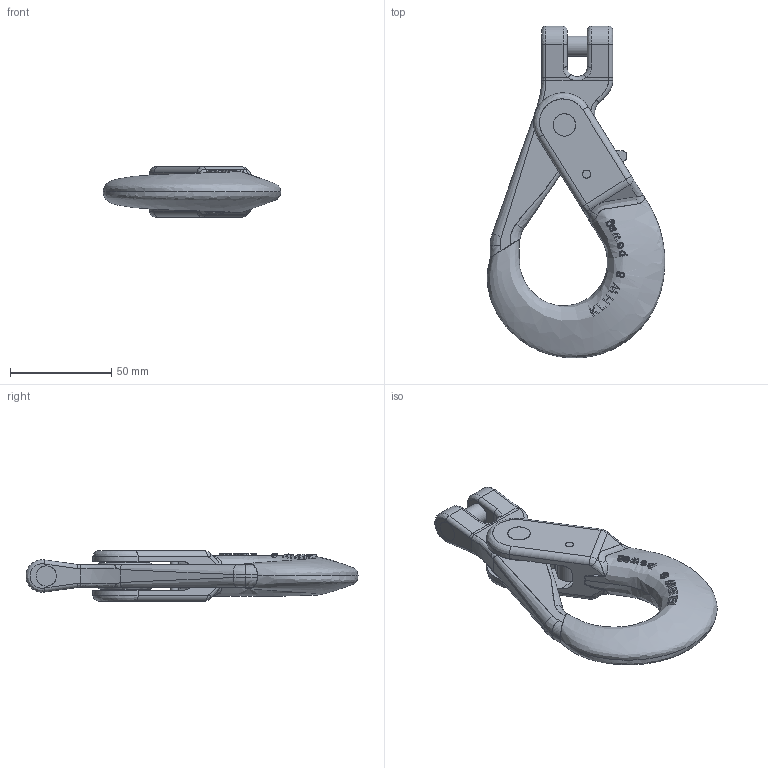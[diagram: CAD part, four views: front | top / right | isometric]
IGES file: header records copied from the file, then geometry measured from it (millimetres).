
Global section: file name: L:\users\SC\3D Kundenmodelle\UG Zg der Ableitung G100\KLHW Kundenmodell\KLHW 8 Kundenmodell\pewag_KLHW_8.igs; native system: NX V4.0; preprocessor: UGS NX IGES V4.0; date: 20100204.102228; units: millimetre
Bounding box: 87.62 x 163.73 x 25 mm (x, y, z)
Surface area: 32164.2 mm2 (no closed solid volume)
Topology: 0 solids, 0 shells, 334 faces, 2193 edges, 2187 vertices
Faces by surface type: bspline 324, offset 10
